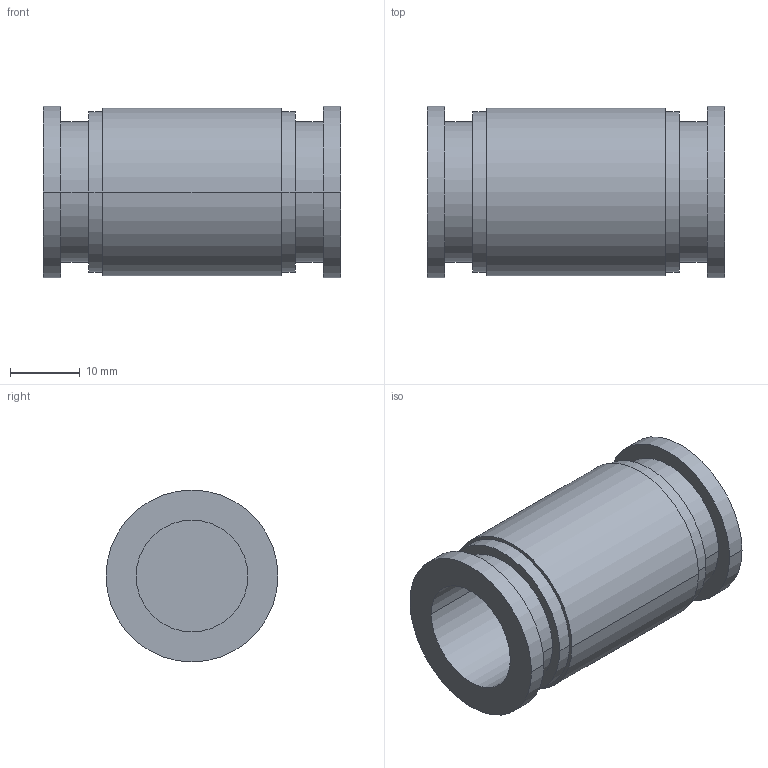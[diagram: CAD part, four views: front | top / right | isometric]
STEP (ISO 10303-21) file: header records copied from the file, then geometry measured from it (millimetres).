
FILE_DESCRIPTION( ( '' ), '1' );
FILE_NAME( 'G:/SMC狟婥/KQ2H16-00A.stp', '2023-03-07T02:57:34', ( '' ), ( '' ), ' ', ' ', ' ' );
FILE_SCHEMA( ( 'CONFIG_CONTROL_DESIGN' ) );
Length unit declared in the file: millimetre
Products named in the file (1): 1
Bounding box: 42.6 x 24.6 x 24.6 mm (x, y, z)
Volume: 9793.8 mm3; surface area: 6738.6 mm2
Topology: 1 solids, 1 shells, 28 faces, 54 edges, 36 vertices
Faces by surface type: cylinder 18, plane 10
Entity records: 778 total; most frequent: DIRECTION 148, CARTESIAN_POINT 119, ORIENTED_EDGE 108, AXIS2_PLACEMENT_3D 65, EDGE_CURVE 54, EDGE_LOOP 36, VERTEX_POINT 36, CIRCLE 36
